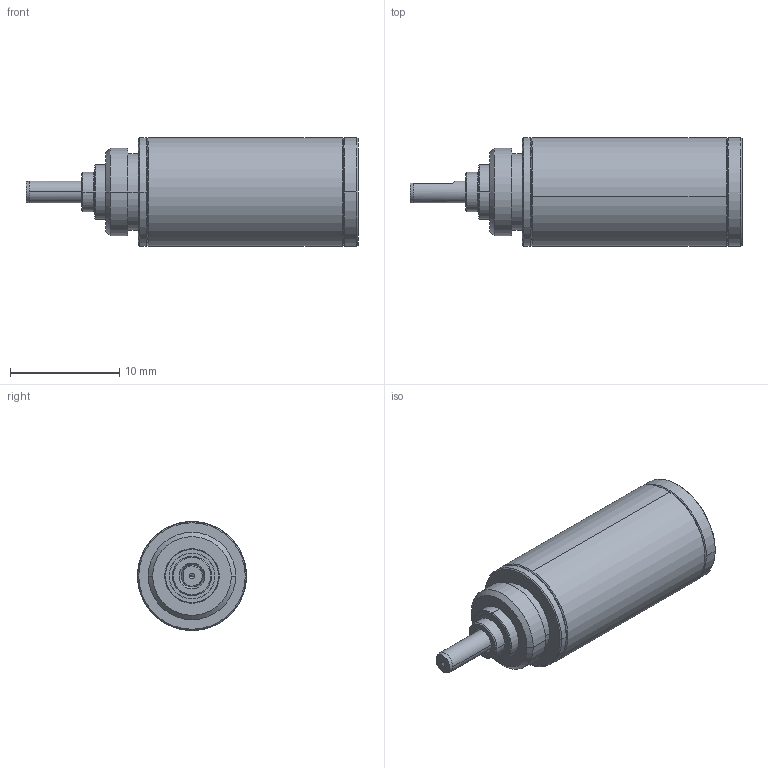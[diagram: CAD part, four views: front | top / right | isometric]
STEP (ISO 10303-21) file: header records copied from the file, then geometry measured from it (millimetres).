
FILE_DESCRIPTION((''),'2;1');
FILE_NAME('218418_GP10A_0_15NM_4ST_KL','2017-01-11T',('mmagpetk'),(''),'CREO PARAMETRIC BY PTC INC, 2016050','CREO PARAMETRIC BY PTC INC, 2016050','');
FILE_SCHEMA(('CONFIG_CONTROL_DESIGN'));
Length unit declared in the file: millimetre
Products named in the file (1): 218418_GP10A_0_15NM_4ST_KL
Bounding box: 30.4 x 9.96 x 9.96 mm (x, y, z)
Volume: 1734.4 mm3; surface area: 964.4 mm2
Topology: 1 solids, 1 shells, 63 faces, 143 edges, 91 vertices
Faces by surface type: cone 25, cylinder 22, plane 14, torus 2
Entity records: 2516 total; most frequent: DIRECTION 350, CARTESIAN_POINT 310, ORIENTED_EDGE 282, PRESENTATION_STYLE_ASSIGNMENT 157, AXIS2_PLACEMENT_3D 150, STYLED_ITEM 142, CURVE_STYLE 141, EDGE_CURVE 141
